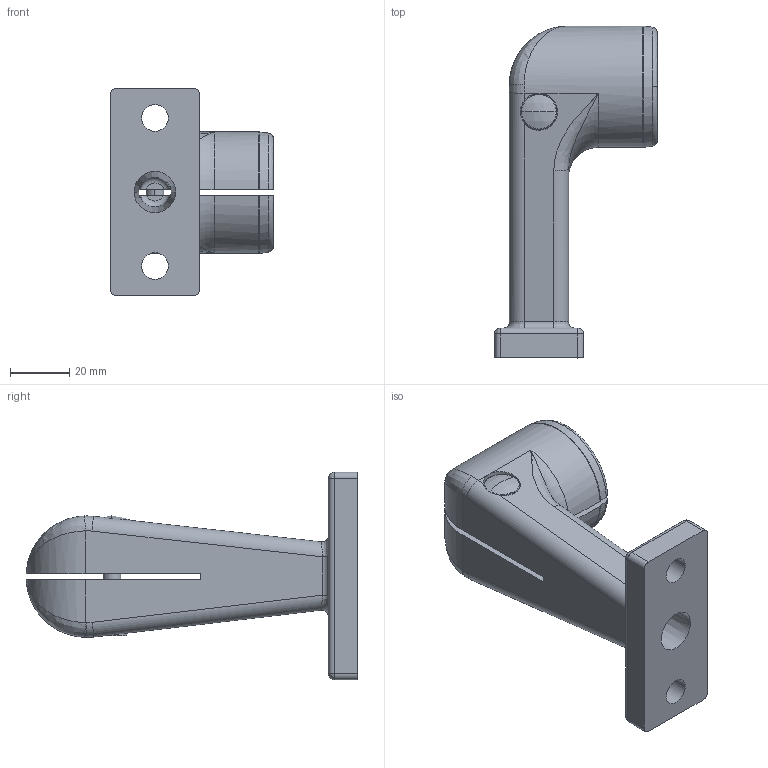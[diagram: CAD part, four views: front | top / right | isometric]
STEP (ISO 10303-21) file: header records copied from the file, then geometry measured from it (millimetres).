
FILE_DESCRIPTION (( 'STEP AP214' ), '1' );
FILE_NAME ('31000410045.STEP', '2024-09-02T09:33:20', ( '' ), ( '' ), 'SwSTEP 2.0', 'SolidWorks 2016', '' );
FILE_SCHEMA (( 'AUTOMOTIVE_DESIGN' ));
Length unit declared in the file: millimetre
Products named in the file (4): DIN 6912  (Regelgewinde) M6 x 25; 635179_H³lsenmutter; 2400_1-Schalig; 31000410045
Assembly tree (3 placements, depth 2):
  31000410045
    2400_1-Schalig
    635179_H³lsenmutter
    DIN 6912  (Regelgewinde) M6 x 25
Bounding box: 55 x 111.98 x 70 mm (x, y, z)
Volume: 82876.5 mm3; surface area: 29360.5 mm2
Topology: 3 solids, 3 shells, 135 faces, 366 edges, 231 vertices
Faces by surface type: cylinder 52, plane 40, bspline 23, cone 14, torus 4, sphere 2
Entity records: 8265 total; most frequent: CARTESIAN_POINT 3441, ORIENTED_EDGE 712, DIRECTION 617, EDGE_CURVE 356, AXIS2_PLACEMENT_3D 241, VERTEX_POINT 231, EDGE_LOOP 149, UNCERTAINTY_MEASURE_WITH_UNIT 145
